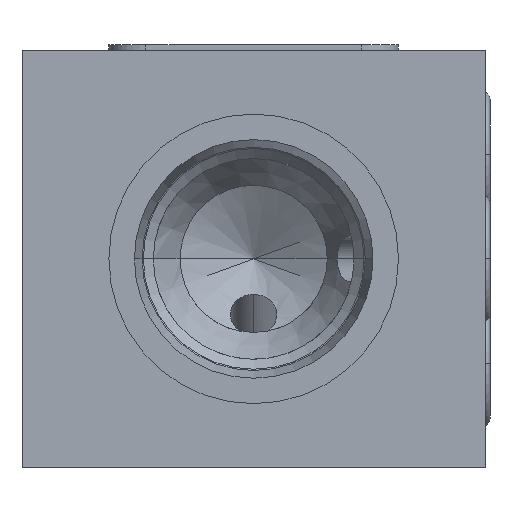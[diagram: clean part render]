
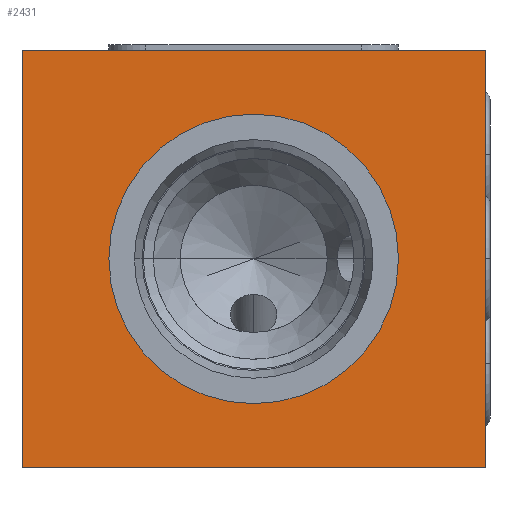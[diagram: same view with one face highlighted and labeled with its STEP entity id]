
A CAD part, left-side view. The second image highlights one B-rep face of the part: STEP entity #2431.
In plain terms, the highlighted planar face has unit normal (-1, 0, 0).
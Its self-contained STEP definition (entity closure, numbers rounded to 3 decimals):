
#55=DIRECTION('',(0.,0.,-1.));
#56=VECTOR('',#55,36.);
#57=CARTESIAN_POINT('',(0.,0.,0.));
#58=LINE('',#57,#56);
#62=DIRECTION('',(0.,1.,0.));
#63=VECTOR('',#62,40.);
#64=CARTESIAN_POINT('',(0.,0.,-36.));
#65=LINE('',#64,#63);
#69=DIRECTION('',(0.,0.,1.));
#70=VECTOR('',#69,36.);
#71=CARTESIAN_POINT('',(0.,40.,-36.));
#72=LINE('',#71,#70);
#76=DIRECTION('',(0.,-1.,0.));
#77=VECTOR('',#76,40.);
#78=CARTESIAN_POINT('',(0.,40.,0.));
#79=LINE('',#78,#77);
#83=CARTESIAN_POINT('',(0.,20.,-18.));
#84=DIRECTION('',(1.,0.,0.));
#85=DIRECTION('',(0.,-1.,0.));
#86=AXIS2_PLACEMENT_3D('',#83,#84,#85);
#91=CARTESIAN_POINT('',(0.,20.,-18.));
#92=DIRECTION('',(1.,0.,0.));
#93=DIRECTION('',(0.,1.,0.));
#94=AXIS2_PLACEMENT_3D('',#91,#92,#93);
#2176=CARTESIAN_POINT('',(0.,0.,0.));
#2177=CARTESIAN_POINT('',(0.,0.,-36.));
#2178=VERTEX_POINT('',#2176);
#2179=VERTEX_POINT('',#2177);
#2180=CARTESIAN_POINT('',(0.,40.,-36.));
#2181=VERTEX_POINT('',#2180);
#2182=CARTESIAN_POINT('',(0.,40.,0.));
#2183=VERTEX_POINT('',#2182);
#2294=CARTESIAN_POINT('',(0.,7.5,-18.));
#2295=VERTEX_POINT('',#2294);
#2296=CARTESIAN_POINT('',(0.,32.5,-18.));
#2297=VERTEX_POINT('',#2296);
#2410=CARTESIAN_POINT('',(0.,0.,0.));
#2411=DIRECTION('',(1.,0.,0.));
#2412=DIRECTION('',(0.,0.,-1.));
#2413=AXIS2_PLACEMENT_3D('',#2410,#2411,#2412);
#2414=PLANE('',#2413);
#2416=ORIENTED_EDGE('',*,*,#2415,.T.);
#2418=ORIENTED_EDGE('',*,*,#2417,.T.);
#2420=ORIENTED_EDGE('',*,*,#2419,.T.);
#2422=ORIENTED_EDGE('',*,*,#2421,.T.);
#2423=EDGE_LOOP('',(#2416,#2418,#2420,#2422));
#2424=FACE_OUTER_BOUND('',#2423,.F.);
#2426=ORIENTED_EDGE('',*,*,#2425,.F.);
#2428=ORIENTED_EDGE('',*,*,#2427,.F.);
#2429=EDGE_LOOP('',(#2426,#2428));
#2430=FACE_BOUND('',#2429,.F.);
#87=CIRCLE('',#86,12.5);
#95=CIRCLE('',#94,12.5);
#2415=EDGE_CURVE('',#2178,#2179,#58,.T.);
#2417=EDGE_CURVE('',#2179,#2181,#65,.T.);
#2419=EDGE_CURVE('',#2181,#2183,#72,.T.);
#2421=EDGE_CURVE('',#2183,#2178,#79,.T.);
#2425=EDGE_CURVE('',#2295,#2297,#87,.T.);
#2427=EDGE_CURVE('',#2297,#2295,#95,.T.);
#2431=ADVANCED_FACE('',(#2424,#2430),#2414,.F.);
